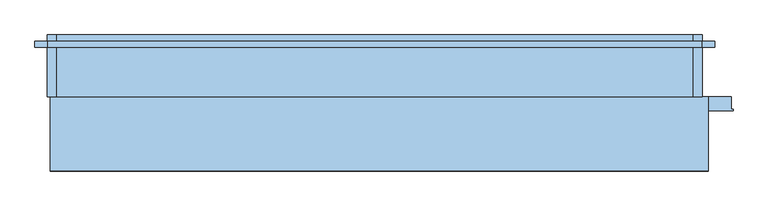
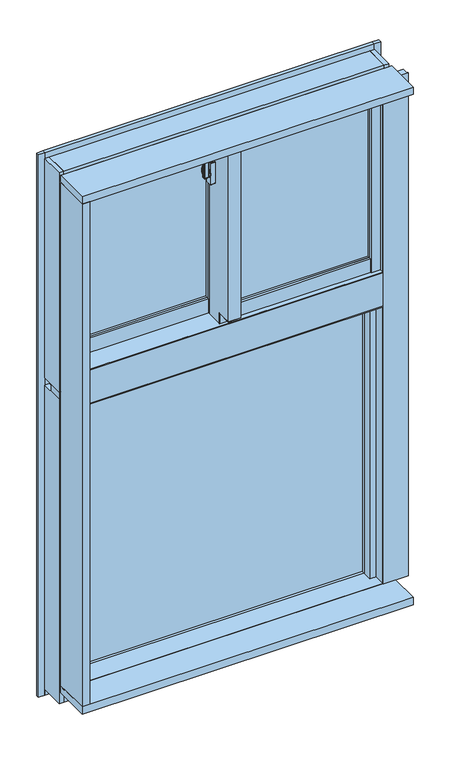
"""IFC4 building model written with IfcOpenShell, lengths in millimetres: window geometry, FNSⅡ100R_非防火_面付枠_段窓_分解無目 : 引違/引違."""

from ifc_helpers import new_model, si_unit, point, frame, frame_2d, origin, place, context, project, spatial, polyline, circle_curve, trimmed, segment, composite_curve, outline, extrude, faceted_brep, source, transform, mapped, element, save
from ifc_brep_helpers import plane_surface, cylinder_surface, revolved_surface, advanced_brep


def window_b402751a(model_context):
    return source(origin(), model_context, "Body", "SolidModel", [
        extrude(outline(composite_curve([segment(polyline([(-39.0, 34.6), (-39.0, 26.4)]), True, "CONTINUOUS"), segment(trimmed(circle_curve(frame_2d((-41.0, 26.4)), 2.0), [point((-39.0, 26.4))], [point((-41.3606557, 24.4327869))], False, "CARTESIAN"), True, "CONTINUOUS"), segment(polyline([(-41.3606557, 24.4327869), (-52.3606557, 26.4494536)]), True, "CONTINUOUS"), segment(trimmed(circle_curve(frame_2d((-52.0, 28.4166667)), 2.0), [point((-52.3606557, 26.4494536))], [point((-54.0, 28.4166667))], False, "CARTESIAN"), True, "CONTINUOUS"), segment(polyline([(-54.0, 28.4166667), (-54.0, 32.5833333)]), True, "CONTINUOUS"), segment(trimmed(circle_curve(frame_2d((-52.0, 32.5833333)), 2.0), [point((-54.0, 32.5833333))], [point((-52.3606557, 34.5505464))], False, "CARTESIAN"), True, "CONTINUOUS"), segment(polyline([(-52.3606557, 34.5505464), (-41.3606557, 36.5672131)]), True, "CONTINUOUS"), segment(trimmed(circle_curve(frame_2d((-41.0, 34.6)), 2.0), [point((-41.3606557, 36.5672131))], [point((-39.0, 34.6))], False, "CARTESIAN"), True, "CONTINUOUS")], self_intersect=False)), frame((0.0, 0.0, 2450.0), z_axis=(0.0, 0.0, 1.0), x_axis=(1.0, 0.0, 0.0)), (0.0, 0.0, 1.0), 100.0),
        advanced_brep(
        [(-37.5, 38.8234285, 2481.7333311), (-45.5, 38.8234285, 2481.7333311), (-45.5, 38.4351999, 2480.2844424), (-39.0, 38.4351999, 2480.2844424), (-39.0, 36.6234666, 2473.5229616), (-37.5, 36.6234666, 2473.5229616), (-39.0, 36.6466117, 2439.3190372), (-45.5, 36.6466117, 2439.3190372), (-45.5, 36.907084, 2437.8418256), (-37.5, 36.907084, 2437.8418256), (-37.5, 35.4310745, 2446.2126915), (-39.0, 35.4310745, 2446.2126915)],
        [
            (0, 1),
            (1, 2),
            (2, 3),
            (3, 4),
            (4, 5),
            (5, 0),
            (6, 7),
            (7, 8),
            (8, 9),
            (9, 10),
            (10, 11),
            (11, 6),
            (0, 9, circle_curve(frame((-37.5, 33.0, 2460.0), z_axis=(-1.0, 0.0, 0.0), x_axis=(0.0, 0.25881904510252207, 0.965925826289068)), 22.5)),
            (8, 1, circle_curve(frame((-45.5, 33.0, 2460.0), z_axis=(1.0, 0.0, 0.0), x_axis=(0.0, 0.25881904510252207, 0.965925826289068)), 22.5)),
            (7, 2, circle_curve(frame((-45.5, 33.0, 2460.0), z_axis=(1.0, 0.0, 0.0), x_axis=(0.0, 0.25881904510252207, 0.965925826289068)), 21.0)),
            (6, 3, circle_curve(frame((-39.0, 33.0, 2460.0), z_axis=(1.0, 0.0, 0.0), x_axis=(0.0, 0.25881904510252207, 0.965925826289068)), 21.0)),
            (11, 4, circle_curve(frame((-39.0, 33.0, 2460.0), z_axis=(-1.0, 0.0, 0.0), x_axis=(0.0, -1.0, 0.0)), 14.0)),
            (5, 10, circle_curve(frame((-37.5, 33.0, 2460.0), z_axis=(1.0, 0.0, 0.0), x_axis=(0.0, -1.0, 0.0)), 14.0)),
        ],
        [
            plane_surface(frame((-43.5470497, 33.0, 2460.0), z_axis=(0.0, -0.965925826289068, 0.25881904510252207), x_axis=(0.0, 0.25881904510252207, 0.965925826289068))),
            plane_surface(frame((-43.5470497, 33.0, 2460.0), z_axis=(0.0, -0.9848077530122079, -0.17364817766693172), x_axis=(0.0, 0.17364817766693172, -0.9848077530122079))),
            cylinder_surface(frame((-43.5470497, 33.0, 2460.0), z_axis=(-1.0, 0.0, 0.0), x_axis=(0.0, 0.25881904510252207, 0.965925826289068)), 22.5),
            plane_surface(frame((-45.5, 33.0, 2460.0), z_axis=(-1.0, 0.0, 0.0), x_axis=(0.0, 0.25881904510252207, 0.965925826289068))),
            revolved_surface(polyline([(-45.5, 38.43519994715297, 2480.2844423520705), (-39.0, 38.43519994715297, 2480.2844423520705)]), (-43.5470497, 33.0, 2460.0), (-1.0, 0.0, 0.0)),
            plane_surface(frame((-39.0, 33.0, 2460.0), z_axis=(-1.0, 0.0, 0.0), x_axis=(0.0, 0.25881904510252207, 0.965925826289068))),
            plane_surface(frame((-37.5, 33.0, 2460.0), z_axis=(1.0, 0.0, 0.0), x_axis=(0.0, 0.25881904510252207, 0.965925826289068))),
            cylinder_surface(frame((-37.5, 33.0, 2460.0), z_axis=(-1.0, 0.0, 0.0), x_axis=(0.0, -1.0, 0.0)), 14.0),
        ],
        [
            (0, [[1, 2, 3, 4, 5, 6]]),
            (1, [[7, 8, 9, 10, 11, 12]]),
            (2, [[-1, 13, -9, 14]]),
            (3, [[-2, -14, -8, 15]]),
            (4, [[-3, -15, -7, 16]]),
            (5, [[-16, -12, 17, -4]]),
            (6, [[-13, -6, 18, -10]]),
            (7, [[-17, -11, -18, -5]]),
        ],
    ),
        extrude(outline(composite_curve([segment(trimmed(circle_curve(frame_2d((33.0, 2460.0)), 11.5), [point((44.5, 2460.0))], [point((21.5, 2460.0))], False, "CARTESIAN"), True, "CONTINUOUS"), segment(trimmed(circle_curve(frame_2d((33.0, 2460.0)), 11.5), [point((21.5, 2460.0))], [point((44.5, 2460.0))], False, "CARTESIAN"), True, "CONTINUOUS")], self_intersect=False)), frame((-37.5, 0.0, 0.0), z_axis=(1.0, 0.0, 0.0), x_axis=(0.0, 1.0, 0.0)), (0.0, 0.0, 1.0), 2.5),
        extrude(outline(composite_curve([segment(polyline([(24.0, 2497.5), (42.0, 2497.5)]), True, "CONTINUOUS"), segment(trimmed(circle_curve(frame_2d((42.0, 2495.5)), 2.0), [point((42.0, 2497.5))], [point((44.0, 2495.5))], False, "CARTESIAN"), True, "CONTINUOUS"), segment(polyline([(44.0, 2495.5), (44.0, 2424.5)]), True, "CONTINUOUS"), segment(trimmed(circle_curve(frame_2d((42.0, 2424.5)), 2.0), [point((44.0, 2424.5))], [point((42.0, 2422.5))], False, "CARTESIAN"), True, "CONTINUOUS"), segment(polyline([(42.0, 2422.5), (24.0, 2422.5)]), True, "CONTINUOUS"), segment(trimmed(circle_curve(frame_2d((24.0, 2424.5)), 2.0), [point((24.0, 2422.5))], [point((22.0, 2424.5))], False, "CARTESIAN"), True, "CONTINUOUS"), segment(polyline([(22.0, 2424.5), (22.0, 2495.5)]), True, "CONTINUOUS"), segment(trimmed(circle_curve(frame_2d((24.0, 2495.5)), 2.0), [point((22.0, 2495.5))], [point((24.0, 2497.5))], False, "CARTESIAN"), True, "CONTINUOUS")], self_intersect=False)), frame((-35.0, 0.0, 0.0), z_axis=(1.0, 0.0, 0.0), x_axis=(0.0, 1.0, 0.0)), (0.0, 0.0, 1.0), 15.0),
        extrude(outline(polyline([(20.0, 24.0), (468.0, 24.0), (468.0, 18.0), (20.0, 18.0), (20.0, 24.0)])), frame((0.0, 0.0, 2008.0), z_axis=(0.0, 0.0, 1.0), x_axis=(1.0, 0.0, 0.0)), (0.0, 0.0, 1.0), 562.0),
        extrude(outline(polyline([(20.0, 42.0), (468.0, 42.0), (468.0, 36.0), (20.0, 36.0), (20.0, 42.0)])), frame((0.0, 0.0, 2008.0), z_axis=(0.0, 0.0, 1.0), x_axis=(1.0, 0.0, 0.0)), (0.0, 0.0, 1.0), 562.0),
        extrude(outline(polyline([(-468.0, 82.0), (-20.0, 82.0), (-20.0, 76.0), (-468.0, 76.0), (-468.0, 82.0)])), frame((0.0, 0.0, 2008.0), z_axis=(0.0, 0.0, 1.0), x_axis=(1.0, 0.0, 0.0)), (0.0, 0.0, 1.0), 562.0),
        extrude(outline(polyline([(-468.0, 100.0), (-20.0, 100.0), (-20.0, 94.0), (-468.0, 94.0), (-468.0, 100.0)])), frame((0.0, 0.0, 2008.0), z_axis=(0.0, 0.0, 1.0), x_axis=(1.0, 0.0, 0.0)), (0.0, 0.0, 1.0), 562.0),
        faceted_brep([(-500.0, 79.0, 2610.0), (-489.5, 79.0, 2610.0), (-489.5, 66.0, 2610.0), (-468.0, 66.0, 2610.0), (-468.0, 108.0, 2610.0), (-500.0, 108.0, 2610.0), (-468.0, 79.0, 1920.0), (-500.0, 79.0, 1920.0), (-500.0, 108.0, 1920.0), (-468.0, 108.0, 1920.0), (-468.0, 79.0, 1960.0), (-489.5, 79.0, 1960.0), (-489.5, 66.0, 1960.0), (-468.0, 66.0, 1960.0)], [[[0, 1, 2, 3, 4, 5]], [[6, 7, 8, 9]], [[1, 0, 7, 6, 10, 11]], [[2, 1, 11, 12]], [[3, 2, 12, 13]], [[4, 3, 13, 10, 6, 9]], [[5, 4, 9, 8]], [[7, 0, 5, 8]], [[11, 10, 13, 12]]]),
        faceted_brep([(-20.0, 65.5, 2610.0), (-1.8, 65.5, 2610.0), (-1.8, 53.1, 2610.0), (20.0, 53.1, 2610.0), (20.0, 108.0, 2610.0), (-20.0, 108.0, 2610.0), (-20.0, 108.0, 1920.0), (20.0, 108.0, 1920.0), (20.0, 79.0, 1920.0), (-20.0, 79.0, 1920.0), (-20.0, 65.5, 1960.0), (-1.8, 65.5, 1960.0), (-1.8, 53.1, 1960.0), (20.0, 53.1, 1960.0), (20.0, 79.0, 1960.0), (-20.0, 79.0, 1960.0)], [[[0, 1, 2, 3, 4, 5]], [[6, 7, 8, 9]], [[1, 0, 10, 11]], [[2, 1, 11, 12]], [[3, 2, 12, 13]], [[4, 3, 13, 14, 8, 7]], [[5, 4, 7, 6]], [[0, 5, 6, 9, 15, 10]], [[14, 15, 9, 8]], [[15, 14, 13, 12, 11, 10]]]),
        faceted_brep([(20.0, 12.0, 2610.0), (15.0, 12.0, 2610.0), (15.0, 0.0, 2610.0), (20.0, 0.0, 2610.0), (-15.0, 53.1, 2610.0), (-20.0, 53.1, 2610.0), (-20.0, 0.0, 2610.0), (-15.0, 0.0, 2610.0), (-20.0, 53.1, 1960.0), (-15.0, 53.1, 1960.0), (-15.0, 0.0, 1960.0), (-20.0, 0.0, 1960.0), (15.0, 12.0, 1960.0), (20.0, 12.0, 1960.0), (20.0, 0.0, 1960.0), (15.0, 0.0, 1960.0), (-20.0, 0.0, 1996.5), (-20.0, -50.0, 1996.5), (-20.0, -50.0, 2581.0), (-20.0, 0.0, 2581.0), (20.0, -50.0, 1996.5), (20.0, -50.0, 2581.0), (20.0, 0.0, 2581.0), (20.0, 0.0, 1996.5), (15.0, -42.0, 2581.0), (15.0, -42.0, 1996.5), (-15.0, -42.0, 1996.5), (-15.0, -42.0, 2581.0), (-15.0, 0.0, 2581.0), (-15.0, 0.0, 1996.5), (15.0, 0.0, 1996.5), (15.0, 0.0, 2581.0)], [[[0, 1, 2, 3]], [[4, 5, 6, 7]], [[8, 9, 10, 11]], [[12, 13, 14, 15]], [[5, 8, 11, 16, 17, 18, 19, 6]], [[18, 17, 20, 21]], [[13, 0, 3, 22, 21, 20, 23, 14]], [[24, 25, 26, 27]], [[9, 4, 7, 28, 27, 26, 29, 10]], [[5, 4, 9, 8]], [[1, 0, 13, 12]], [[1, 12, 15, 30, 25, 24, 31, 2]], [[29, 16, 11, 10]], [[23, 30, 15, 14]], [[16, 29, 26, 25, 30, 23, 20, 17]], [[28, 19, 18, 21, 22, 31, 24, 27]], [[19, 28, 7, 6]], [[31, 22, 3, 2]]]),
        faceted_brep([(15.0, 12.0, 2610.0), (20.0, 12.0, 2610.0), (20.0, 53.1, 2610.0), (-15.0, 53.1, 2610.0), (-15.0, 0.0, 2610.0), (15.0, 0.0, 2610.0), (-15.0, 53.1, 1960.0), (20.0, 53.1, 1960.0), (20.0, 12.0, 1960.0), (15.0, 12.0, 1960.0), (15.0, 0.0, 1960.0), (-15.0, 0.0, 1960.0), (-15.0, 0.0, 1996.5), (-15.0, -42.0, 1996.5), (-15.0, -42.0, 2581.0), (-15.0, 0.0, 2581.0), (15.0, -42.0, 1996.5), (15.0, -42.0, 2581.0), (15.0, 0.0, 1996.5), (15.0, 0.0, 2581.0)], [[[0, 1, 2, 3, 4, 5]], [[6, 7, 8, 9, 10, 11]], [[3, 6, 11, 12, 13, 14, 15, 4]], [[14, 13, 16, 17]], [[2, 1, 8, 7]], [[3, 2, 7, 6]], [[18, 12, 11, 10]], [[12, 18, 16, 13]], [[19, 15, 14, 17]], [[15, 19, 5, 4]], [[9, 0, 5, 19, 17, 16, 18, 10]], [[1, 0, 9, 8]]]),
        extrude(outline(polyline([(468.0, 0.0), (468.0, 8.0), (489.5, 8.0), (489.5, 21.0), (497.0, 21.0), (497.0, 0.0), (468.0, 0.0)])), frame((0.0, 0.0, 1963.0), z_axis=(0.0, 0.0, 1.0), x_axis=(1.0, 0.0, 0.0)), (0.0, 0.0, 1.0), 647.0),
        extrude(outline(polyline([(468.0, 50.0), (500.0, 50.0), (500.0, 21.0), (489.5, 21.0), (489.5, 8.0), (468.0, 8.0), (468.0, 50.0)])), frame((0.0, 0.0, 1960.0), z_axis=(0.0, 0.0, 1.0), x_axis=(1.0, 0.0, 0.0)), (0.0, 0.0, 1.0), 650.0),
        extrude(outline(polyline([(-1.85, 65.5), (-1.85, 58.0), (-20.0, 58.0), (-20.0, 65.5), (-1.85, 65.5)])), frame((0.0, 0.0, 1960.0), z_axis=(0.0, 0.0, 1.0), x_axis=(1.0, 0.0, 0.0)), (0.0, 0.0, 1.0), 650.0),
        extrude(outline(polyline([(-497.0, 79.0), (-489.5, 79.0), (-489.5, 66.0), (-468.0, 66.0), (-468.0, 58.0), (-497.0, 58.0), (-497.0, 79.0)])), frame((0.0, 0.0, 1960.0), z_axis=(0.0, 0.0, 1.0), x_axis=(1.0, 0.0, 0.0)), (0.0, 0.0, 1.0), 650.0),
        extrude(outline(polyline([(2.0, 1963.0), (2.0, 2008.0), (10.0, 2008.0), (10.0, 1985.5), (21.0, 1985.5), (21.0, 1963.0), (2.0, 1963.0)])), frame((20.0, 0.0, 0.0), z_axis=(1.0, 0.0, 0.0), x_axis=(0.0, 1.0, 0.0)), (0.0, 0.0, 1.0), 448.0),
        extrude(outline(polyline([(50.0, 1960.0), (21.0, 1960.0), (21.0, 1985.5), (10.0, 1985.5), (10.0, 2008.0), (50.0, 2008.0), (50.0, 1960.0)])), frame((20.0, 0.0, 0.0), z_axis=(1.0, 0.0, 0.0), x_axis=(0.0, 1.0, 0.0)), (0.0, 0.0, 1.0), 448.0),
        extrude(outline(polyline([(60.0, 2008.0), (68.0, 2008.0), (68.0, 1985.5), (79.0, 1985.5), (79.0, 1960.0), (60.0, 1960.0), (60.0, 2008.0)])), frame((-468.0, 0.0, 0.0), z_axis=(1.0, 0.0, 0.0), x_axis=(0.0, 1.0, 0.0)), (0.0, 0.0, 1.0), 448.0),
        extrude(outline(polyline([(108.0, 1920.0), (79.0, 1920.0), (79.0, 1985.5), (68.0, 1985.5), (68.0, 2008.0), (108.0, 2008.0), (108.0, 1920.0)])), frame((-468.0, 0.0, 0.0), z_axis=(1.0, 0.0, 0.0), x_axis=(0.0, 1.0, 0.0)), (0.0, 0.0, 1.0), 448.0),
        extrude(outline(polyline([(23.0, 2590.5), (10.0, 2590.5), (10.0, 2570.0), (2.0, 2570.0), (2.0, 2610.0), (23.0, 2610.0), (23.0, 2590.5)])), frame((20.0, 0.0, 0.0), z_axis=(1.0, 0.0, 0.0), x_axis=(0.0, 1.0, 0.0)), (0.0, 0.0, 1.0), 448.0),
        extrude(outline(polyline([(50.0, 2610.0), (50.0, 2570.0), (10.0, 2570.0), (10.0, 2590.5), (23.0, 2590.5), (23.0, 2610.0), (50.0, 2610.0)])), frame((20.0, 0.0, 0.0), z_axis=(1.0, 0.0, 0.0), x_axis=(0.0, 1.0, 0.0)), (0.0, 0.0, 1.0), 448.0),
        extrude(outline(polyline([(81.0, 2590.5), (68.0, 2590.5), (68.0, 2570.0), (60.0, 2570.0), (60.0, 2610.0), (81.0, 2610.0), (81.0, 2590.5)])), frame((-468.0, 0.0, 0.0), z_axis=(1.0, 0.0, 0.0), x_axis=(0.0, 1.0, 0.0)), (0.0, 0.0, 1.0), 448.0),
        extrude(outline(polyline([(108.0, 2610.0), (108.0, 2570.0), (68.0, 2570.0), (68.0, 2590.5), (81.0, 2590.5), (81.0, 2610.0), (108.0, 2610.0)])), frame((-468.0, 0.0, 0.0), z_axis=(1.0, 0.0, 0.0), x_axis=(0.0, 1.0, 0.0)), (0.0, 0.0, 1.0), 448.0),
        extrude(outline(polyline([(0.0, 2581.0), (-50.0, 2581.0), (-50.0, 2582.0), (-1.0, 2582.0), (-1.0, 2610.0), (0.0, 2610.0), (0.0, 2581.0)])), frame((-20.0, 0.0, 0.0), z_axis=(1.0, 0.0, 0.0), x_axis=(0.0, 1.0, 0.0)), (0.0, 0.0, 1.0), 40.0),
        extrude(outline(polyline([(0.0, 1996.5), (0.0, 1960.0), (-1.0, 1960.0), (-1.0, 1995.5), (-50.0, 1995.5), (-50.0, 1996.5), (0.0, 1996.5)])), frame((-20.0, 0.0, 0.0), z_axis=(1.0, 0.0, 0.0), x_axis=(0.0, 1.0, 0.0)), (0.0, 0.0, 1.0), 40.0),
        extrude(outline(polyline([(-15.0, 80.3), (-15.0, 31.9), (-500.0, 31.9), (-500.0, 80.3), (-15.0, 80.3)])), frame((0.0, 0.0, 2610.0), z_axis=(0.0, 0.0, 1.0), x_axis=(1.0, 0.0, 0.0)), (0.0, 0.0, 1.0), 25.0),
        faceted_brep([(515.0, 80.3, 2635.0), (515.0, 10.0, 2635.0), (-515.0, 10.0, 2635.0), (-515.0, 80.3, 2635.0), (-15.0, 80.3, 2635.0), (-15.0, 31.9, 2635.0), (500.0, 31.9, 2635.0), (500.0, 80.3, 2635.0), (515.0, 80.3, 2610.0), (500.0, 80.3, 2610.0), (-515.0, 80.3, 2610.0), (-15.0, 80.3, 2610.0), (515.0, 110.0, 2610.0), (500.0, 31.9, 2610.0), (-15.0, 31.9, 2610.0), (-515.0, 110.0, 2610.0), (515.0, 110.0, 2645.0), (-515.0, 110.0, 2645.0), (515.0, 10.0, 2645.0), (-515.0, 10.0, 2645.0)], [[[0, 1, 2, 3, 4, 5, 6, 7]], [[8, 0, 7, 9]], [[3, 10, 11, 4]], [[12, 8, 9, 13, 14, 11, 10, 15]], [[16, 12, 15, 17]], [[18, 16, 17, 19]], [[1, 18, 19, 2]], [[12, 16, 18, 1, 0, 8]], [[15, 10, 3, 2, 19, 17]], [[6, 13, 9, 7]], [[11, 14, 5, 4]], [[13, 6, 5, 14]]]),
        extrude(outline(polyline([(31.9, 2610.0), (-10.0, 2610.0), (-10.0, 2613.0), (10.0, 2613.0), (10.0, 2635.0), (31.9, 2635.0), (31.9, 2610.0)])), frame((-500.0, 0.0, 0.0), z_axis=(1.0, 0.0, 0.0), x_axis=(0.0, 1.0, 0.0)), (0.0, 0.0, 1.0), 1000.0),
        faceted_brep([(500.0, 10.0, 2630.0), (515.0, 10.0, 2630.0), (515.0, 14.5, 2630.0), (500.0, 14.5, 2630.0), (500.0, -10.0, 1960.0), (500.0, 14.5, 1960.0), (515.0, 14.5, 1960.0), (515.0, 10.0, 1960.0), (503.0, 10.0, 1960.0), (503.0, -10.0, 1960.0), (503.0, -10.0, 2613.0), (500.0, -10.0, 2613.0), (503.0, 10.0, 2613.0), (500.0, 10.0, 2613.0)], [[[0, 1, 2, 3]], [[4, 5, 6, 7, 8, 9]], [[4, 9, 10, 11]], [[9, 8, 12, 10]], [[0, 13, 12, 8, 7, 1]], [[2, 1, 7, 6]], [[3, 2, 6, 5]], [[5, 4, 11, 13, 0, 3]], [[12, 13, 11, 10]]]),
        faceted_brep([(-515.0, 10.0, 2630.0), (-500.0, 10.0, 2630.0), (-500.0, 76.0, 2630.0), (-515.0, 76.0, 2630.0), (-515.0, 10.0, 1960.0), (-515.0, 76.0, 1960.0), (-500.0, 76.0, 1960.0), (-500.0, -10.0, 1960.0), (-503.0, -10.0, 1960.0), (-503.0, 10.0, 1960.0), (-503.0, 10.0, 2613.0), (-500.0, 10.0, 2613.0), (-503.0, -10.0, 2613.0), (-500.0, -10.0, 2613.0)], [[[0, 1, 2, 3]], [[4, 5, 6, 7, 8, 9]], [[4, 9, 10, 11, 1, 0]], [[9, 8, 12, 10]], [[8, 7, 13, 12]], [[7, 6, 2, 1, 11, 13]], [[3, 2, 6, 5]], [[4, 0, 3, 5]], [[11, 10, 12, 13]]]),
        faceted_brep([(-530.0, 10.0, 2645.0), (-530.0, 110.0, 2645.0), (-530.0, 110.0, 1900.0), (-530.0, 10.0, 1900.0), (-515.0, 110.0, 2645.0), (-515.0, 10.0, 2645.0), (-515.0, 10.0, 1900.0), (-515.0, 110.0, 1900.0), (-515.0, 110.0, 1909.0), (-515.0, 76.0, 1909.0), (-515.0, 76.0, 2610.0), (-515.0, 110.0, 2610.0), (-500.0, 110.0, 2610.0), (-500.0, 110.0, 1909.0), (-500.0, 76.0, 2610.0), (-500.0, 76.0, 1909.0)], [[[0, 1, 2, 3]], [[4, 5, 6, 7, 8, 9, 10, 11]], [[1, 0, 5, 4]], [[2, 7, 6, 3]], [[5, 0, 3, 6]], [[1, 4, 11, 12, 13, 8, 7, 2]], [[12, 11, 10, 14]], [[13, 15, 9, 8]], [[14, 10, 9, 15]], [[12, 14, 15, 13]]]),
        faceted_brep([(515.0, 14.5, 2610.0), (500.0, 14.5, 2610.0), (500.0, 14.5, 1909.0), (515.0, 14.5, 1909.0), (500.0, 110.0, 2610.0), (500.0, 110.0, 1909.0), (515.0, 10.0, 2645.0), (530.0, 10.0, 2645.0), (530.0, 110.0, 2645.0), (515.0, 110.0, 2645.0), (515.0, 10.0, 1900.0), (515.0, 110.0, 1900.0), (530.0, 110.0, 1900.0), (530.0, 10.0, 1900.0), (515.0, 110.0, 2610.0), (515.0, 110.0, 1909.0)], [[[0, 1, 2, 3]], [[1, 4, 5, 2]], [[6, 7, 8, 9]], [[10, 11, 12, 13]], [[1, 0, 14, 4]], [[2, 5, 15, 3]], [[7, 6, 10, 13]], [[8, 7, 13, 12]], [[9, 8, 12, 11, 15, 5, 4, 14]], [[6, 9, 14, 0, 3, 15, 11, 10]]]),
        faceted_brep([(515.0, 10.0, 1944.0), (515.0, 76.0, 1944.0), (-515.0, 76.0, 1944.0), (-515.0, 10.0, 1944.0), (500.0, 37.25, 1944.0), (500.0, 18.8, 1944.0), (-15.0, 18.8, 1944.0), (-15.0, 37.25, 1944.0), (515.0, 76.0, 1909.0), (-515.0, 76.0, 1909.0), (515.0, 110.0, 1909.0), (-515.0, 110.0, 1909.0), (515.0, 110.0, 1900.0), (515.0, 10.0, 1900.0), (-515.0, 10.0, 1900.0), (-515.0, 110.0, 1900.0), (500.0, 18.8, 1960.0), (500.0, 37.25, 1960.0), (-15.0, 18.8, 1960.0), (-15.0, 37.25, 1960.0)], [[[0, 1, 2, 3], [4, 5, 6, 7]], [[1, 8, 9, 2]], [[8, 10, 11, 9]], [[12, 13, 14, 15]], [[12, 10, 8, 1, 0, 13]], [[15, 14, 3, 2, 9, 11]], [[13, 0, 3, 14]], [[10, 12, 15, 11]], [[16, 5, 4, 17]], [[18, 19, 7, 6]], [[5, 16, 18, 6]], [[17, 4, 7, 19]], [[16, 17, 19, 18]]]),
        faceted_brep([(503.0, -10.0, 1960.0), (503.0, -10.0, 1957.0), (503.0, 10.0, 1957.0), (503.0, 10.0, 1944.0), (503.0, 14.5, 1944.0), (503.0, 14.5, 1960.0), (-503.0, 10.0, 1944.0), (-503.0, 10.0, 1957.0), (-503.0, -10.0, 1957.0), (-503.0, -10.0, 1960.0), (-503.0, 18.8, 1960.0), (-503.0, 18.8, 1944.0), (500.0, 14.5, 1960.0), (500.0, 18.8, 1960.0), (-15.0, 18.8, 1960.0), (-15.0, 76.0, 1960.0), (-500.0, 76.0, 1960.0), (-500.0, 18.8, 1960.0), (-500.0, 18.8, 1944.0), (500.0, 18.8, 1944.0), (-15.0, 18.8, 1944.0), (-500.0, 76.0, 1944.0), (-15.0, 76.0, 1944.0), (500.0, 14.5, 1944.0)], [[[0, 1, 2, 3, 4, 5]], [[6, 7, 8, 9, 10, 11]], [[3, 2, 7, 6]], [[2, 1, 8, 7]], [[1, 0, 9, 8]], [[10, 9, 0, 5, 12, 13, 14, 15, 16, 17]], [[11, 10, 17, 18]], [[13, 19, 20, 14]], [[6, 11, 18, 21, 22, 20, 19, 23, 4, 3]], [[12, 23, 19, 13]], [[23, 12, 5, 4]], [[15, 14, 20, 22]], [[16, 21, 18, 17]], [[15, 22, 21, 16]]]),
        extrude(outline(polyline([(-480.0, 75.6), (480.0, 75.6), (480.0, 69.6), (-480.0, 69.6), (-480.0, 75.6)])), frame((0.0, 0.0, 900.0), z_axis=(0.0, 0.0, 1.0), x_axis=(1.0, 0.0, 0.0)), (0.0, 0.0, 1.0), 920.0),
        extrude(outline(polyline([(-480.0, 93.6), (480.0, 93.6), (480.0, 87.6), (-480.0, 87.6), (-480.0, 93.6)])), frame((0.0, 0.0, 900.0), z_axis=(0.0, 0.0, 1.0), x_axis=(1.0, 0.0, 0.0)), (0.0, 0.0, 1.0), 920.0),
        faceted_brep([(-530.0, 110.0, 1875.0), (-530.0, 10.0, 1875.0), (-515.0, 10.0, 1875.0), (-515.0, 110.0, 1875.0), (-530.0, 110.0, 840.0), (-515.0, 110.0, 840.0), (-515.0, 10.0, 840.0), (-530.0, 10.0, 840.0), (-515.0, 110.0, 900.0), (-515.0, 60.0, 900.0), (-515.0, 60.0, 1820.0), (-515.0, 110.0, 1820.0), (-480.0, 110.0, 1820.0), (-480.0, 110.0, 900.0), (-480.0, 60.0, 1820.0), (-480.0, 60.0, 900.0)], [[[0, 1, 2, 3]], [[4, 5, 6, 7]], [[1, 0, 4, 7]], [[2, 1, 7, 6]], [[3, 2, 6, 5, 8, 9, 10, 11]], [[0, 3, 11, 12, 13, 8, 5, 4]], [[12, 11, 10, 14]], [[13, 15, 9, 8]], [[14, 10, 9, 15]], [[12, 14, 15, 13]]]),
        faceted_brep([(530.0, 110.0, 1875.0), (515.0, 110.0, 1875.0), (515.0, 10.0, 1875.0), (530.0, 10.0, 1875.0), (530.0, 110.0, 840.0), (530.0, 10.0, 840.0), (515.0, 10.0, 840.0), (515.0, 110.0, 840.0), (515.0, 110.0, 900.0), (480.0, 110.0, 900.0), (480.0, 110.0, 1820.0), (515.0, 110.0, 1820.0), (515.0, 60.0, 1820.0), (515.0, 60.0, 900.0), (480.0, 60.0, 1820.0), (480.0, 60.0, 900.0)], [[[0, 1, 2, 3]], [[4, 5, 6, 7]], [[1, 0, 4, 7, 8, 9, 10, 11]], [[2, 1, 11, 12, 13, 8, 7, 6]], [[3, 2, 6, 5]], [[0, 3, 5, 4]], [[11, 10, 14, 12]], [[13, 15, 9, 8]], [[14, 10, 9, 15]], [[12, 14, 15, 13]]]),
        extrude(outline(polyline([(500.0, -10.0), (500.0, 28.5), (480.0, 28.5), (480.0, 60.0), (515.0, 60.0), (515.0, 10.0), (503.0, 10.0), (503.0, -10.0), (500.0, -10.0)])), frame((0.0, 0.0, 900.0), z_axis=(0.0, 0.0, 1.0), x_axis=(1.0, 0.0, 0.0)), (0.0, 0.0, 1.0), 940.0),
        extrude(outline(polyline([(-515.0, 10.0), (-515.0, 60.0), (-480.0, 60.0), (-480.0, 28.5), (-500.0, 28.5), (-500.0, -10.0), (-503.0, -10.0), (-503.0, 10.0), (-515.0, 10.0)])), frame((0.0, 0.0, 900.0), z_axis=(0.0, 0.0, 1.0), x_axis=(1.0, 0.0, 0.0)), (0.0, 0.0, 1.0), 940.0),
        extrude(outline(polyline([(10.0, 884.0), (10.0, 897.0), (-10.0, 897.0), (-10.0, 900.0), (60.0, 900.0), (60.0, 884.0), (10.0, 884.0)])), frame((-503.0, 0.0, 0.0), z_axis=(1.0, 0.0, 0.0), x_axis=(0.0, 1.0, 0.0)), (0.0, 0.0, 1.0), 1006.0),
        extrude(outline(polyline([(110.0, 840.0), (10.0, 840.0), (10.0, 884.0), (60.0, 884.0), (60.0, 900.0), (110.0, 900.0), (110.0, 870.0), (91.0, 870.0), (91.0, 850.0), (110.0, 850.0), (110.0, 840.0)])), frame((-515.0, 0.0, 0.0), z_axis=(1.0, 0.0, 0.0), x_axis=(0.0, 1.0, 0.0)), (0.0, 0.0, 1.0), 1030.0),
        extrude(outline(polyline([(60.0, 1817.0), (26.0, 1817.0), (26.0, 1840.0), (-10.0, 1840.0), (-10.0, 1843.0), (10.0, 1843.0), (10.0, 1855.0), (60.0, 1855.0), (60.0, 1817.0)])), frame((-503.0, 0.0, 0.0), z_axis=(1.0, 0.0, 0.0), x_axis=(0.0, 1.0, 0.0)), (0.0, 0.0, 1.0), 1006.0),
        extrude(outline(polyline([(110.0, 1820.0), (60.0, 1820.0), (60.0, 1855.0), (10.0, 1855.0), (10.0, 1875.0), (110.0, 1875.0), (110.0, 1820.0)])), frame((-515.0, 0.0, 0.0), z_axis=(1.0, 0.0, 0.0), x_axis=(0.0, 1.0, 0.0)), (0.0, 0.0, 1.0), 1030.0),
        extrude(outline(polyline([(-110.0, 900.0), (-10.0, 900.0), (-10.0, 897.0), (10.0, 897.0), (10.0, 875.0), (-110.0, 875.0), (-110.0, 900.0)])), frame((-525.0, 0.0, 0.0), z_axis=(1.0, 0.0, 0.0), x_axis=(0.0, 1.0, 0.0)), (0.0, 0.0, 1.0), 1065.0),
        extrude(outline(polyline([(-530.0, 90.0), (-530.0, 100.0), (530.0, 100.0), (530.0, 90.0), (-530.0, 90.0)])), frame((0.0, 0.0, 820.0), z_axis=(0.0, 0.0, 1.0), x_axis=(1.0, 0.0, 0.0)), (0.0, 0.0, 1.0), 20.0),
        extrude(outline(polyline([(-503.0, 10.0), (-503.0, -10.0), (-500.0, -10.0), (-500.0, -110.0), (-525.0, -110.0), (-525.0, 10.0), (-503.0, 10.0)])), frame((0.0, 0.0, 900.0), z_axis=(0.0, 0.0, 1.0), x_axis=(1.0, 0.0, 0.0)), (0.0, 0.0, 1.0), 1710.0),
        extrude(outline(polyline([(-550.0, 90.0), (-550.0, 100.0), (-530.0, 100.0), (-530.0, 90.0), (-550.0, 90.0)])), frame((0.0, 0.0, 820.0), z_axis=(0.0, 0.0, 1.0), x_axis=(1.0, 0.0, 0.0)), (0.0, 0.0, 1.0), 1845.0),
        extrude(outline(polyline([(550.0, 90.0), (530.0, 90.0), (530.0, 100.0), (550.0, 100.0), (550.0, 90.0)])), frame((0.0, 0.0, 820.0), z_axis=(0.0, 0.0, 1.0), x_axis=(1.0, 0.0, 0.0)), (0.0, 0.0, 1.0), 1845.0),
        extrude(outline(polyline([(503.0, -10.0), (503.0, 10.0), (577.0, 10.0), (577.0, -10.0), (580.0, -10.0), (580.0, -12.5), (500.0, -12.5), (500.0, -10.0), (503.0, -10.0)])), frame((0.0, 0.0, 900.0), z_axis=(0.0, 0.0, 1.0), x_axis=(1.0, 0.0, 0.0)), (0.0, 0.0, 1.0), 1710.0),
        extrude(outline(polyline([(10.0, 2613.0), (-10.0, 2613.0), (-10.0, 2610.0), (-110.0, 2610.0), (-110.0, 2635.0), (10.0, 2635.0), (10.0, 2613.0)])), frame((-525.0, 0.0, 0.0), z_axis=(1.0, 0.0, 0.0), x_axis=(0.0, 1.0, 0.0)), (0.0, 0.0, 1.0), 1065.0),
        extrude(outline(polyline([(-530.0, 90.0), (-530.0, 100.0), (530.0, 100.0), (530.0, 90.0), (-530.0, 90.0)])), frame((0.0, 0.0, 1875.0), z_axis=(0.0, 0.0, 1.0), x_axis=(1.0, 0.0, 0.0)), (0.0, 0.0, 1.0), 25.0),
        extrude(outline(polyline([(-500.0, -10.0), (-500.0, 10.0), (500.0, 10.0), (500.0, -10.0), (-500.0, -10.0)])), frame((0.0, 0.0, 1843.0), z_axis=(0.0, 0.0, 1.0), x_axis=(1.0, 0.0, 0.0)), (0.0, 0.0, 1.0), 114.0),
        extrude(outline(polyline([(-530.0, 10.0), (-530.0, 53.5), (530.0, 53.5), (530.0, 10.0), (-530.0, 10.0)])), frame((0.0, 0.0, 1875.0), z_axis=(0.0, 0.0, 1.0), x_axis=(1.0, 0.0, 0.0)), (0.0, 0.0, 1.0), 25.0),
        extrude(outline(polyline([(-530.0, 90.0), (-530.0, 100.0), (530.0, 100.0), (530.0, 90.0), (-530.0, 90.0)])), frame((0.0, 0.0, 2645.0), z_axis=(0.0, 0.0, 1.0), x_axis=(1.0, 0.0, 0.0)), (0.0, 0.0, 1.0), 20.0),
    ])


if __name__ == "__main__":
    model = new_model("IFC4")
    model_context = context("Model", 3, world=origin())
    ifc_project = project(units=[si_unit("LENGTHUNIT", "METRE", prefix="MILLI")], contexts=[model_context])
    site = spatial("IfcSite", under=ifc_project)
    building = spatial("IfcBuilding", under=site)
    placement = place(None, origin())
    window_shape = window_b402751a(model_context)
    element("IfcWindow", 1, ObjectType="FNSⅡ100R_非防火_面付枠_段窓_分解無目 : 引違/引違", at=placement, inside=building, context=model_context, shape_type="MappedRepresentation", body=[
        mapped(window_shape, transform((0.0, 0.0, 0.0), x_axis=(1.0, 0.0, 0.0), y_axis=(0.0, 1.0, 0.0), z_axis=(0.0, 0.0, 1.0))),
    ])
    save(model, "model.ifc")
